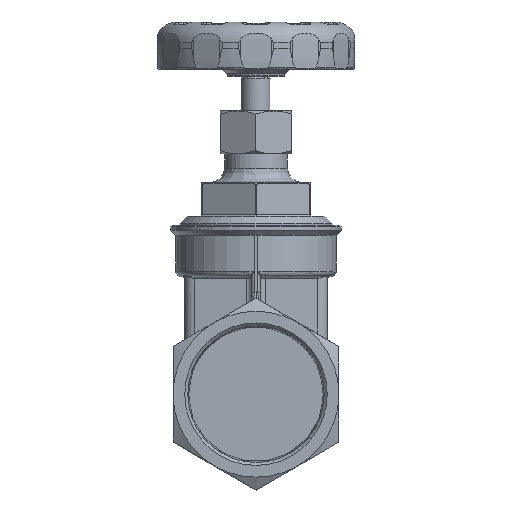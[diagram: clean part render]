
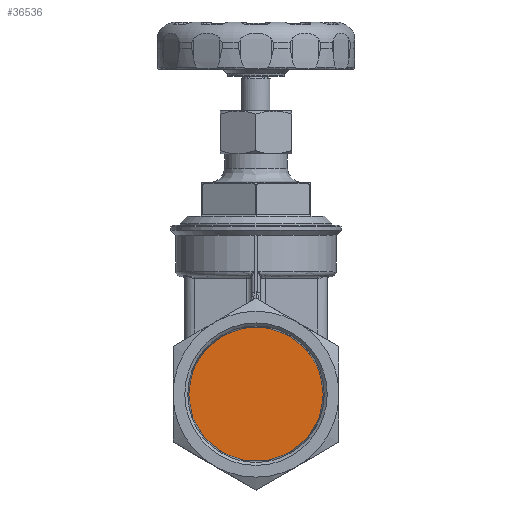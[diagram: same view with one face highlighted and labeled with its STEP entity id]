
A CAD part, left-side view. The second image highlights one B-rep face of the part: STEP entity #36536.
In plain terms, the highlighted planar face has unit normal (-1, 0, 0).
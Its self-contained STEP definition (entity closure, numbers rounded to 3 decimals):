
#36513=CARTESIAN_POINT('',(12.7,-23.457,0.0));
#36514=VERTEX_POINT('',#36513);
#36515=CARTESIAN_POINT('',(12.7,0.,0.0));
#36516=DIRECTION('',(-1.0,0.0,0.0));
#36517=DIRECTION('',(0.0,-1.0,0.0));
#36518=AXIS2_PLACEMENT_3D('',#36515,#36516,#36517);
#36519=CIRCLE('',#36518,23.457);
#36520=EDGE_CURVE('',#36514,#36514,#36519,.T.);
#36528=CARTESIAN_POINT('',(12.7,-11.728,0.0));
#36529=DIRECTION('',(-1.0,0.0,0.0));
#36530=DIRECTION('',(0.0,0.0,1.0));
#36531=AXIS2_PLACEMENT_3D('',#36528,#36529,#36530);
#36532=PLANE('',#36531);
#36533=ORIENTED_EDGE('',*,*,#36520,.T.);
#36534=EDGE_LOOP('',(#36533));
#36535=FACE_OUTER_BOUND('',#36534,.T.);
#36536=ADVANCED_FACE('',(#36535),#36532,.T.);
